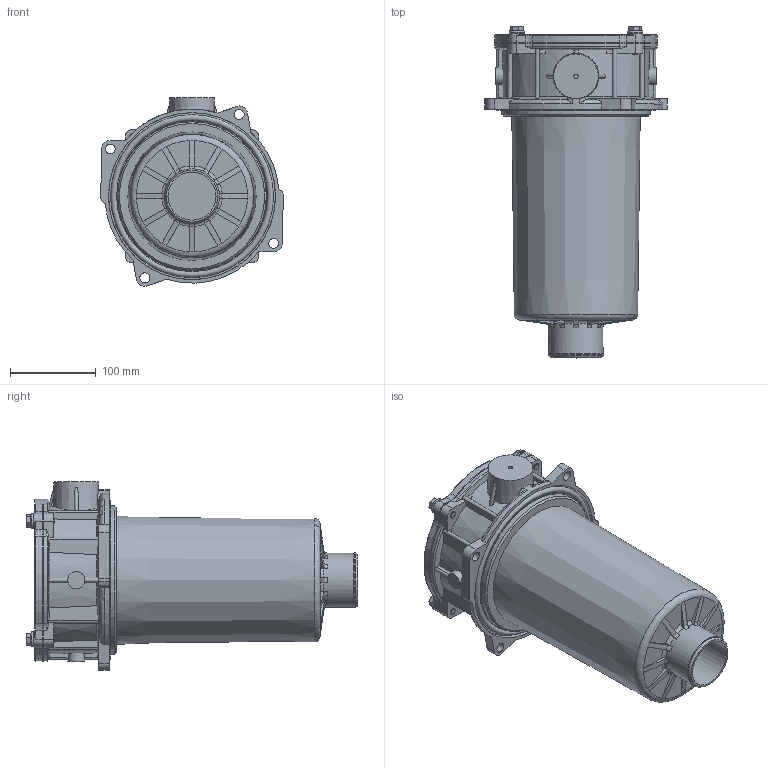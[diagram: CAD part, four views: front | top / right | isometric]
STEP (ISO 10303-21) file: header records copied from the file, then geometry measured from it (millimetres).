
FILE_DESCRIPTION((''),'2;1');
FILE_NAME('V:\Disegni-3D-Cliente\Filtri\Filtri sul Ritorno\MPF\MPF400\MPF4003_01.stp','2013-03-07T10:09:36',('cad10'),(''),'Autodesk Inventor 2013','Autodesk Inventor 2013','');
FILE_SCHEMA(('AUTOMOTIVE_DESIGN { 1 0 10303 214 1 1 1 1 }'));
Length unit declared in the file: millimetre
Products named in the file (1): MPF400_Shrinkwrap_1
Bounding box: 213 x 387.1 x 220.26 mm (x, y, z)
Volume: 6328941.4 mm3; surface area: 312965.1 mm2
Topology: 2 solids, 2 shells, 445 faces, 1139 edges, 708 vertices
Faces by surface type: plane 178, cylinder 97, cone 77, torus 77, bspline 16
Full cylindrical faces by diameter (mm): 5 x1, 6 x1, 8 x4, 11.5 x4, 20 x3, 39 x1, 56 x1, 63 x1, 64 x1, 173.5 x1
Entity records: 15463 total; most frequent: CARTESIAN_POINT 5086, ORIENTED_EDGE 2142, DIRECTION 1978, EDGE_CURVE 1071, AXIS2_PLACEMENT_3D 826, VERTEX_POINT 696, EDGE_LOOP 523, STYLED_ITEM 446
